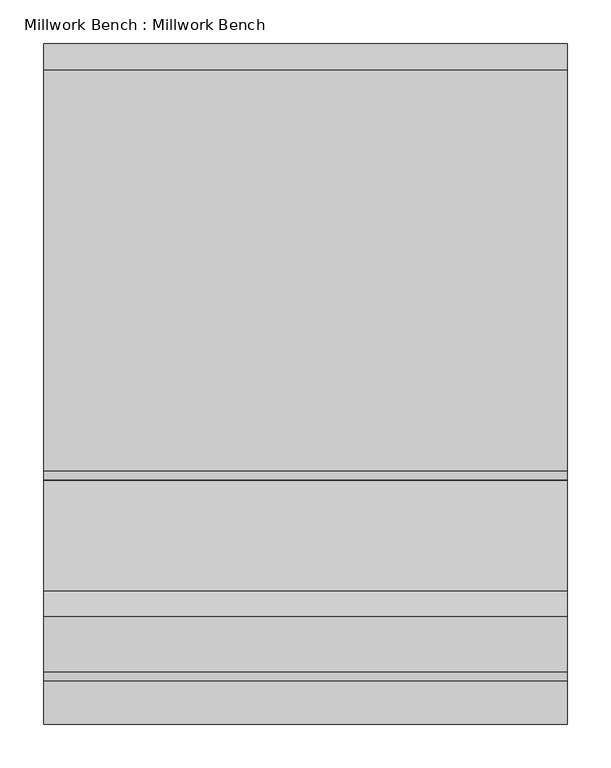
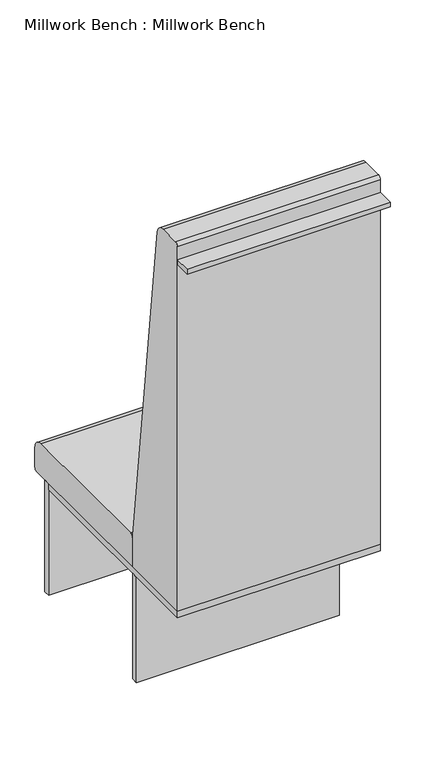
"""IFC4 building model written with IfcOpenShell, lengths in millimetres: plate geometry, Millwork Bench : Millwork Bench."""

from ifc_helpers import new_model, si_unit, point, frame, frame_2d, origin, origin_with_axes, place, context, project, spatial, polyline, circle_curve, trimmed, segment, composite_curve, outline, extrude, source, transform, mapped, element, save


def millwork_bench_millwork_bench_4cd5eb03(model_context):
    return source(origin(), model_context, "Body", "SweptSolid", [
        extrude(outline(composite_curve([segment(trimmed(circle_curve(frame_2d((60.0, 1490.0)), 10.0), [point((50.0, 1490.0))], [point((60.0, 1500.0))], False, "CARTESIAN"), True, "CONTINUOUS"), segment(polyline([(60.0, 1500.0), (123.4920869, 1500.0)]), True, "CONTINUOUS"), segment(trimmed(circle_curve(frame_2d((123.4920869, 1470.0)), 30.0), [point((123.4920869, 1500.0))], [point((153.0994406, 1474.8378308))], False, "CARTESIAN"), True, "CONTINUOUS"), segment(trimmed(circle_curve(frame_2d((-12920.1560931, -661.3273622)), 13246.6302123), [point((153.0994406, 1474.8378308))], [point((279.897996, 448.5302971))], False, "CARTESIAN"), True, "CONTINUOUS"), segment(trimmed(circle_curve(frame_2d((169.9898497, 444.3374224)), 109.9880941), [point((279.897996, 448.5302971))], [point((279.9779437, 444.3374224))], False, "CARTESIAN"), True, "CONTINUOUS"), segment(polyline([(279.9779437, 444.3374224), (279.9779437, 350.0), (50.0, 350.0), (50.0, 1490.0)]), True, "CONTINUOUS")], self_intersect=False)), frame((-300.0, 0.0, 0.0), z_axis=(1.0, 0.0, 0.0), x_axis=(0.0, 1.0, 0.0)), (0.0, 0.0, 1.0), 600.0),
        extrude(outline(composite_curve([segment(polyline([(290.0, 450.0), (750.0, 450.0)]), True, "CONTINUOUS"), segment(trimmed(circle_curve(frame_2d((750.0, 420.0)), 30.0), [point((750.0, 450.0))], [point((780.0, 420.0))], False, "CARTESIAN"), True, "CONTINUOUS"), segment(polyline([(780.0, 420.0), (780.0, 360.0)]), True, "CONTINUOUS"), segment(trimmed(circle_curve(frame_2d((770.0, 360.0)), 10.0), [point((780.0, 360.0))], [point((770.0, 350.0))], False, "CARTESIAN"), True, "CONTINUOUS"), segment(polyline([(770.0, 350.0), (280.0, 350.0), (280.0, 440.0)]), True, "CONTINUOUS"), segment(trimmed(circle_curve(frame_2d((290.0, 440.0)), 10.0), [point((280.0, 440.0))], [point((290.0, 450.0))], False, "CARTESIAN"), True, "CONTINUOUS")], self_intersect=False)), frame((-300.0, 0.0, 0.0), z_axis=(1.0, 0.0, 0.0), x_axis=(0.0, 1.0, 0.0)), (0.0, 0.0, 1.0), 600.0),
        extrude(outline(polyline([(300.0, 50.0), (300.0, 0.0), (-300.0, 0.0), (-300.0, 50.0), (300.0, 50.0)])), frame((0.0, 0.0, 1435.0), z_axis=(0.0, 0.0, 1.0), x_axis=(1.0, 0.0, 0.0)), (0.0, 0.0, 1.0), 15.0),
        extrude(outline(polyline([(300.0, 280.0), (300.0, 260.0), (-300.0, 260.0), (-300.0, 280.0), (300.0, 280.0)])), origin_with_axes(), (0.0, 0.0, 1.0), 330.0),
        extrude(outline(polyline([(300.0, 710.0), (300.0, 50.0), (-300.0, 50.0), (-300.0, 710.0), (300.0, 710.0)])), frame((0.0, 0.0, 330.0), z_axis=(0.0, 0.0, 1.0), x_axis=(1.0, 0.0, 0.0)), (0.0, 0.0, 1.0), 20.0),
        extrude(outline(polyline([(300.0, 730.0), (300.0, 710.0), (-300.0, 710.0), (-300.0, 730.0), (300.0, 730.0)])), origin_with_axes(), (0.0, 0.0, 1.0), 350.0),
    ])


if __name__ == "__main__":
    model = new_model("IFC4")
    model_context = context("Model", 3, world=origin())
    ifc_project = project(units=[si_unit("LENGTHUNIT", "METRE", prefix="MILLI")], contexts=[model_context])
    site = spatial("IfcSite", under=ifc_project)
    building = spatial("IfcBuilding", under=site)
    placement = place(None, origin())
    millwork_bench_millwork_bench_shape = millwork_bench_millwork_bench_4cd5eb03(model_context)
    element("IfcPlate", 1, ObjectType="Millwork Bench : Millwork Bench", at=placement, inside=building, context=model_context, shape_type="MappedRepresentation", body=[
        mapped(millwork_bench_millwork_bench_shape, transform((0.0, 0.0, 0.0), x_axis=(1.0, 0.0, 0.0), y_axis=(0.0, 1.0, 0.0), z_axis=(0.0, 0.0, 1.0))),
    ])
    save(model, "model.ifc")
